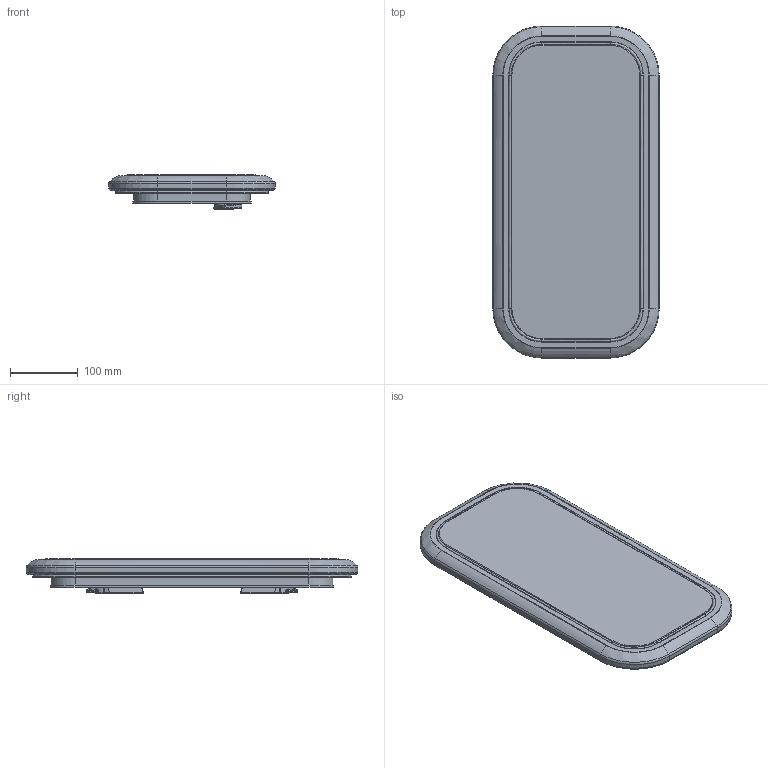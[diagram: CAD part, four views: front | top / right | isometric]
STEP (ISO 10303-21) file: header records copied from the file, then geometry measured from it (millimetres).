
FILE_DESCRIPTION((''),'2;1');
FILE_NAME('LEWMAR-HATCH-LOWPRO-41_ASM','2008-02-04T',('skennedy'),(''),'PRO/ENGINEER BY PARAMETRIC TECHNOLOGY CORPORATION, 2007030','PRO/ENGINEER BY PARAMETRIC TECHNOLOGY CORPORATION, 2007030','');
FILE_SCHEMA(('CONFIG_CONTROL_DESIGN'));
Length unit declared in the file: millimetre
Products named in the file (5): FRAME_41; 3594153X; SMALL_HANDLE_LHS; SMALL_HANDLE_RHS; LEWMAR-HATCH-LOWPRO-41_ASM
Assembly tree (4 placements, depth 2):
  LEWMAR-HATCH-LOWPRO-41_ASM
    FRAME_41
    3594153X
    SMALL_HANDLE_LHS
    SMALL_HANDLE_RHS
Bounding box: 246 x 491 x 51 mm (x, y, z)
Volume: 1887197.1 mm3; surface area: 442765.5 mm2
Topology: 6 solids, 6 shells, 530 faces, 1182 edges, 684 vertices
Faces by surface type: bspline 274, plane 128, cylinder 88, cone 16, torus 12, sphere 12
Entity records: 23549 total; most frequent: CARTESIAN_POINT 13049, ORIENTED_EDGE 2364, DIRECTION 1746, EDGE_CURVE 1182, VERTEX_POINT 684, AXIS2_PLACEMENT_3D 633, EDGE_LOOP 552, FACE_OUTER_BOUND 530
